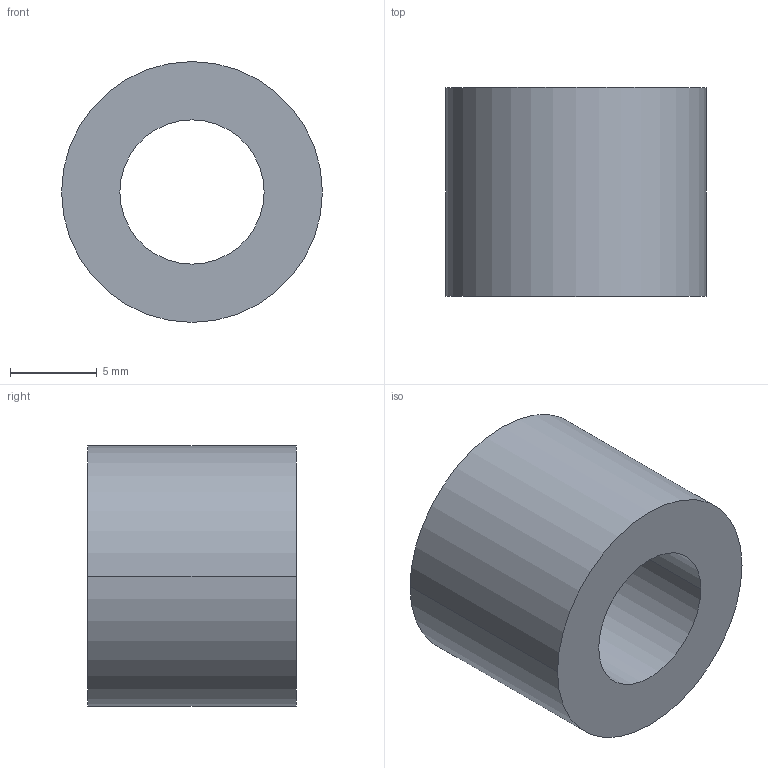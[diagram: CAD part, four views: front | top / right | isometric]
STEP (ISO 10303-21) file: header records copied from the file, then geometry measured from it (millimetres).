
FILE_DESCRIPTION (( 'STEP AP203' ), '1' );
FILE_NAME ('30800.WPP15E8.3.step', '2019-01-23T22:29:42', ( '' ), ( '' ), 'SwSTEP 2.0', 'SolidWorks 2017', '' );
FILE_SCHEMA (( 'CONFIG_CONTROL_DESIGN' ));
Length unit declared in the file: millimetre
Products named in the file (1): 30800.WPP15E8.3
Bounding box: 15 x 12 x 15 mm (x, y, z)
Volume: 1446.5 mm3; surface area: 1103 mm2
Topology: 1 solids, 1 shells, 8 faces, 16 edges, 10 vertices
Faces by surface type: cylinder 4, torus 2, plane 2
Entity records: 297 total; most frequent: DIRECTION 46, CARTESIAN_POINT 35, ORIENTED_EDGE 32, AXIS2_PLACEMENT_3D 21, EDGE_CURVE 16, CIRCLE 12, EDGE_LOOP 10, VERTEX_POINT 10
